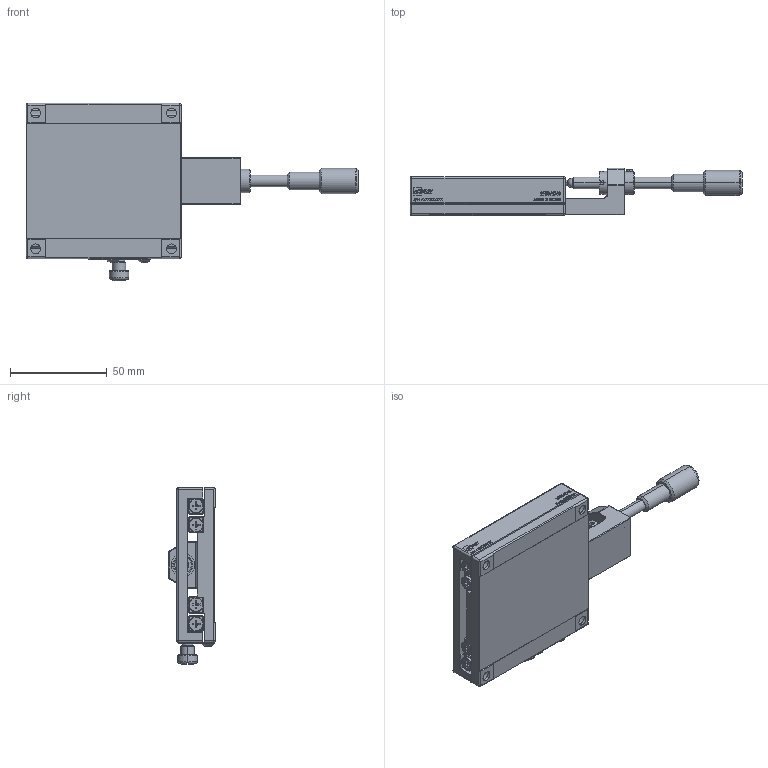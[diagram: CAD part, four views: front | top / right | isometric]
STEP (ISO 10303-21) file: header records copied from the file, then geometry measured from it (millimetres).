
FILE_DESCRIPTION (( 'STEP AP203' ), '1' );
FILE_NAME ('MX80-AC-18(«¬¿ý).STEP', '2013-07-11T10:57:06', ( '123' ), ( '' ), 'SwSTEP 2.0', 'SolidWorks 2013', '' );
FILE_SCHEMA (( 'CONFIG_CONTROL_DESIGN' ));
Products named in the file (3): Group1^MX80-AC-18(型錄); Group2^MX80-AC-18(型錄); MX80-AC-18(型錄)
Assembly tree (2 placements, depth 2):
  MX80-AC-18(型錄)
    Group1^MX80-AC-18(型錄)
    Group2^MX80-AC-18(型錄)
Bounding box: 171.18 x 24.3 x 91.4 mm (x, y, z)
Volume: 121907.3 mm3; surface area: 51478.5 mm2
Topology: 18 solids, 18 shells, 2481 faces, 6455 edges, 4145 vertices
Faces by surface type: plane 1561, cylinder 386, bspline 318, cone 154, torus 50, sphere 12
Entity records: 93304 total; most frequent: CARTESIAN_POINT 33956, ORIENTED_EDGE 12842, DIRECTION 11152, EDGE_CURVE 6421, LINE 4364, VECTOR 4364, VERTEX_POINT 4145, AXIS2_PLACEMENT_3D 3394
